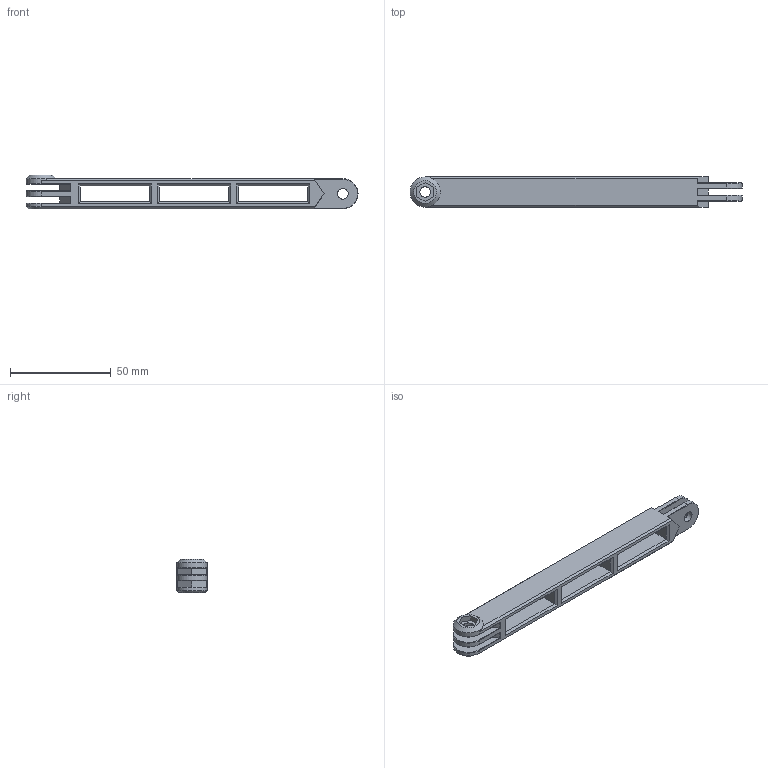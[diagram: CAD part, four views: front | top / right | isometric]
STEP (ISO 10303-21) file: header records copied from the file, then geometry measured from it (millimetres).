
FILE_DESCRIPTION(/* description */ ('STEP AP214'),/* implementation_level */ '2;1');
FILE_NAME(/* name */ '60a1cb8447515311da46b7ba',/* time_stamp */ '2021-05-17T01:48:53+00:00',/* author */ (''),/* organization */ (''),/* preprocessor_version */ 'ST-DEVELOPER v18.1',/* originating_system */ ' ',/* authorisation */ ' ');
FILE_SCHEMA (('AUTOMOTIVE_DESIGN {1 0 10303 214 3 1 1}'));
Length unit declared in the file: metre
Products named in the file (1): Arm Rotated
Bounding box: 165 x 15 x 16.8 mm (x, y, z)
Volume: 19303.1 mm3; surface area: 12744 mm2
Topology: 1 solids, 1 shells, 116 faces, 300 edges, 187 vertices
Faces by surface type: plane 96, cylinder 10, cone 10
Full cylindrical faces by diameter (mm): 5.3 x5
Entity records: 3423 total; most frequent: CARTESIAN_POINT 586, ORIENTED_EDGE 576, DIRECTION 555, EDGE_CURVE 288, LINE 255, VECTOR 255, VERTEX_POINT 181, AXIS2_PLACEMENT_3D 150
